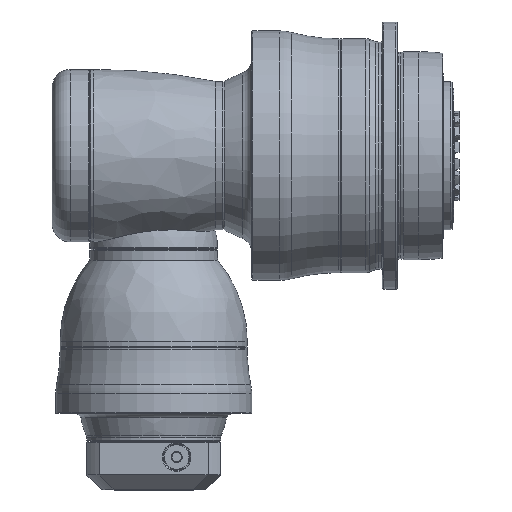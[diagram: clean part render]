
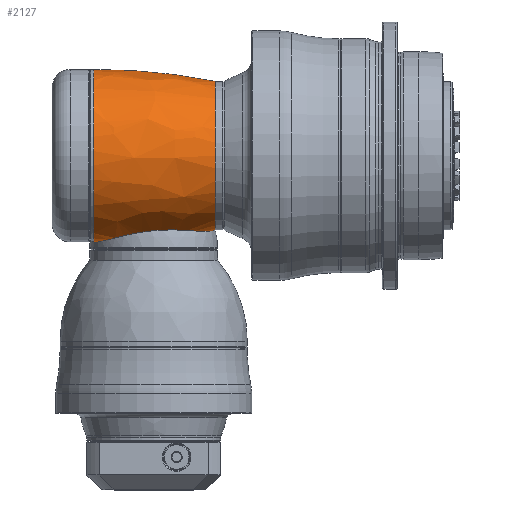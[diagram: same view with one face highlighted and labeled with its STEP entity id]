
A CAD part, top view. The second image highlights one B-rep face of the part: STEP entity #2127.
In plain terms, the highlighted free-form (B-spline) face has degree [3, 3] with [7, 4] control points.
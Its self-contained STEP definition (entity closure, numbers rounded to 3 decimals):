
#561=CARTESIAN_POINT('',(-38.133,341.993,
0.));
#562=DIRECTION('',(0.,0.,-1.));
#563=DIRECTION('',(0.199,-0.98,0.));
#564=AXIS2_PLACEMENT_3D('',#561,#562,#563);
#571=CARTESIAN_POINT('',(-38.133,-341.993,
0.));
#572=DIRECTION('',(0.,0.,1.));
#573=DIRECTION('',(0.199,0.98,0.));
#574=AXIS2_PLACEMENT_3D('',#571,#572,#573);
#602=CARTESIAN_POINT('',(-40.5,0.,0.));
#603=DIRECTION('',(1.,0.,0.));
#604=DIRECTION('',(0.,1.,0.01));
#605=AXIS2_PLACEMENT_3D('',#602,#603,#604);
#628=CARTESIAN_POINT('',(-40.249,58.001,
0.));
#629=CARTESIAN_POINT('',(-40.249,58.001,0.069));
#630=CARTESIAN_POINT('',(-40.268,58.001,0.209));
#631=CARTESIAN_POINT('',(-40.356,58.,0.402));
#632=CARTESIAN_POINT('',(-40.448,57.998,0.509));
#633=CARTESIAN_POINT('',(-40.5,57.997,0.555));
#635=CARTESIAN_POINT('',(41.5,0.,0.));
#636=DIRECTION('',(1.,0.,0.));
#637=DIRECTION('',(0.,1.,0.));
#638=AXIS2_PLACEMENT_3D('',#635,#636,#637);
#640=CARTESIAN_POINT('',(37.853,-50.723,
0.));
#641=CARTESIAN_POINT('',(37.201,-50.849,1.535));
#642=CARTESIAN_POINT('',(35.679,-51.003,4.541));
#643=CARTESIAN_POINT('',(32.646,-50.982,8.913));
#644=CARTESIAN_POINT('',(28.982,-50.777,12.881));
#645=CARTESIAN_POINT('',(24.797,-50.487,16.34));
#646=CARTESIAN_POINT('',(20.137,-50.203,19.257));
#647=CARTESIAN_POINT('',(15.063,-50.016,21.589));
#648=CARTESIAN_POINT('',(9.633,-50.004,23.29));
#649=CARTESIAN_POINT('',(3.914,-50.231,24.313));
#650=CARTESIAN_POINT('',(-2.014,-50.741,24.595));
#651=CARTESIAN_POINT('',(-7.959,-51.534,24.088));
#652=CARTESIAN_POINT('',(-13.747,-52.561,22.787));
#653=CARTESIAN_POINT('',(-19.259,-53.743,20.707));
#654=CARTESIAN_POINT('',(-24.358,-54.972,17.898));
#655=CARTESIAN_POINT('',(-28.918,-56.121,14.452));
#656=CARTESIAN_POINT('',(-32.85,-57.073,10.493));
#657=CARTESIAN_POINT('',(-36.11,-57.736,6.162));
#658=CARTESIAN_POINT('',(-38.693,-58.049,1.578));
#659=CARTESIAN_POINT('',(-39.967,-58.004,
-1.557));
#660=CARTESIAN_POINT('',(-40.5,-57.915,-3.141));
#821=CARTESIAN_POINT('',(41.5,50.,0.));
#822=CARTESIAN_POINT('',(41.5,-50.,0.));
#823=VERTEX_POINT('',#821);
#824=VERTEX_POINT('',#822);
#825=CARTESIAN_POINT('',(37.853,-50.723,
0.));
#826=VERTEX_POINT('',#825);
#855=VERTEX_POINT('',#660);
#895=VERTEX_POINT('',#628);
#896=VERTEX_POINT('',#633);
#2088=CARTESIAN_POINT('',(-42.151,57.868,
-3.704));
#2089=CARTESIAN_POINT('',(-13.485,58.156,
-3.722));
#2090=CARTESIAN_POINT('',(15.047,55.378,-3.544));
#2091=CARTESIAN_POINT('',(43.117,49.567,-3.172));
#2092=CARTESIAN_POINT('',(-42.151,60.198,32.694));
#2093=CARTESIAN_POINT('',(-13.485,60.497,32.856));
#2094=CARTESIAN_POINT('',(15.047,57.607,31.287));
#2095=CARTESIAN_POINT('',(43.117,51.562,28.003));
#2096=CARTESIAN_POINT('',(-42.151,34.888,58.954));
#2097=CARTESIAN_POINT('',(-13.485,35.061,59.246));
#2098=CARTESIAN_POINT('',(15.047,33.386,56.416));
#2099=CARTESIAN_POINT('',(43.117,29.883,50.496));
#2100=CARTESIAN_POINT('',(-42.151,-1.571,
57.966));
#2101=CARTESIAN_POINT('',(-13.485,-1.579,
58.253));
#2102=CARTESIAN_POINT('',(15.047,-1.503,55.471));
#2103=CARTESIAN_POINT('',(43.117,-1.346,49.65));
#2104=CARTESIAN_POINT('',(-42.151,-38.029,
56.977));
#2105=CARTESIAN_POINT('',(-13.485,-38.218,
57.26));
#2106=CARTESIAN_POINT('',(15.047,-36.393,54.525));
#2107=CARTESIAN_POINT('',(43.117,-32.574,48.804));
#2108=CARTESIAN_POINT('',(-42.151,-61.88,
29.385));
#2109=CARTESIAN_POINT('',(-13.485,-62.188,
29.531));
#2110=CARTESIAN_POINT('',(15.047,-59.217,28.121));
#2111=CARTESIAN_POINT('',(43.117,-53.003,25.17));
#2112=CARTESIAN_POINT('',(-42.151,-57.583,
-6.833));
#2113=CARTESIAN_POINT('',(-13.485,-57.869,
-6.866));
#2114=CARTESIAN_POINT('',(15.047,-55.105,
-6.538));
#2115=CARTESIAN_POINT('',(43.117,-49.322,
-5.852));
#2116=(BOUNDED_SURFACE()B_SPLINE_SURFACE(3,3,((#2088,#2089,#2090,#2091),(#2092,
#2093,#2094,#2095),(#2096,#2097,#2098,#2099),(#2100,#2101,#2102,#2103),(#2104,
#2105,#2106,#2107),(#2108,#2109,#2110,#2111),(#2112,#2113,#2114,#2115)),
.UNSPECIFIED.,.F.,.F.,.F.)B_SPLINE_SURFACE_WITH_KNOTS((4,3,4),(4,4),(0.,1.,
2.),(0.,1.),.UNSPECIFIED.)GEOMETRIC_REPRESENTATION_ITEM()RATIONAL_B_SPLINE_SURFACE(((1.198,1.193,1.193,1.198),(
0.938,0.934,0.934,0.938),(
0.938,0.934,0.934,0.938),(
1.198,1.193,1.193,1.198),(
0.938,0.934,0.934,0.938),(
0.938,0.934,0.934,0.938),(
1.198,1.193,1.193,1.198)))REPRESENTATION_ITEM('')SURFACE());
#2117=ORIENTED_EDGE('',*,*,#2044,.F.);
#2118=ORIENTED_EDGE('',*,*,#2031,.F.);
#2120=ORIENTED_EDGE('',*,*,#2119,.T.);
#2121=ORIENTED_EDGE('',*,*,#2027,.T.);
#2123=ORIENTED_EDGE('',*,*,#2122,.T.);
#2124=ORIENTED_EDGE('',*,*,#2063,.F.);
#2125=EDGE_LOOP('',(#2117,#2118,#2120,#2121,#2123,#2124));
#2126=FACE_OUTER_BOUND('',#2125,.F.);
#2127=ADVANCED_FACE('',(#2126),#2116,.T.);
#565=CIRCLE('',#564,400.);
#575=CIRCLE('',#574,400.);
#606=CIRCLE('',#605,58.);
#634=B_SPLINE_CURVE_WITH_KNOTS('',3,(#628,#629,#630,#631,#632,#633),
.UNSPECIFIED.,.F.,.F.,(4,1,1,4),(0.,0.333,0.667,1.),
.UNSPECIFIED.);
#639=CIRCLE('',#638,50.);
#661=B_SPLINE_CURVE_WITH_KNOTS('',3,(#640,#641,#642,#643,#644,#645,#646,#647,
#648,#649,#650,#651,#652,#653,#654,#655,#656,#657,#658,#659,#660),.UNSPECIFIED.,
.F.,.F.,(4,1,1,1,1,1,1,1,1,1,1,1,1,1,1,1,1,1,4),(0.,0.056,
0.111,0.167,0.222,0.278,
0.333,0.389,0.444,0.5,0.556,
0.611,0.667,0.722,0.778,
0.833,0.889,0.944,1.),.UNSPECIFIED.);
#2027=EDGE_CURVE('',#824,#826,#565,.T.);
#2031=EDGE_CURVE('',#823,#895,#575,.T.);
#2044=EDGE_CURVE('',#895,#896,#634,.T.);
#2063=EDGE_CURVE('',#896,#855,#606,.T.);
#2119=EDGE_CURVE('',#823,#824,#639,.T.);
#2122=EDGE_CURVE('',#826,#855,#661,.T.);
